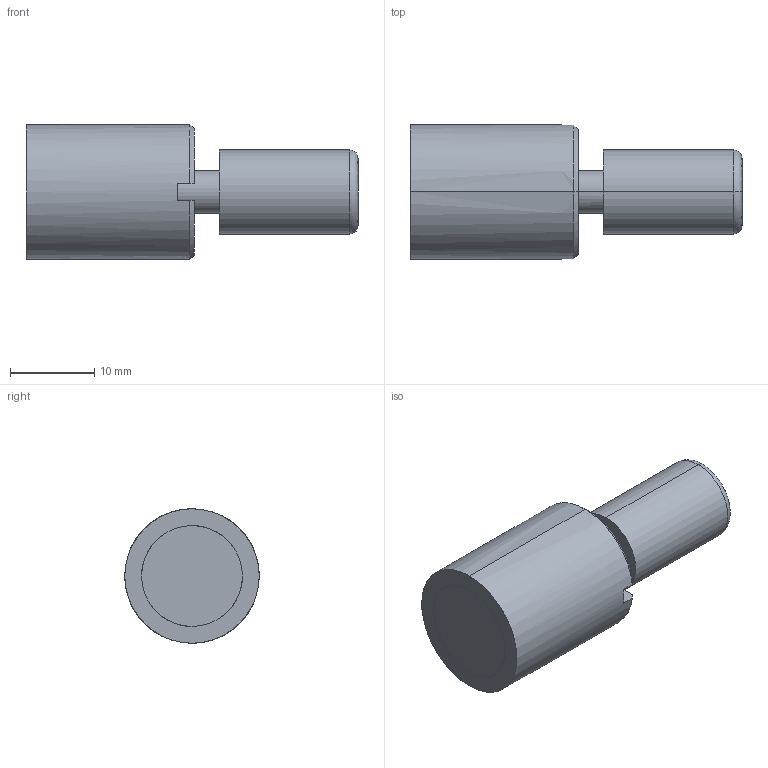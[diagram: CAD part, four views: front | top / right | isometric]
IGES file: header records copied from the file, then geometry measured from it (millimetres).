
Start section: START RECORD GO HERE.
Global section: file name: CF-VPA16.igs; native system: DASSAULT SYSTEMES CATIA V5 R20 - www.3ds.com; preprocessor: CATIA Version 5 Release 20 ; author: Utente; organization: NB04-ASUS; date: 20210320.175138; units: millimetre
Bounding box: 39.5 x 16 x 16 mm (x, y, z)
Surface area: 2933 mm2 (no closed solid volume)
Topology: 0 solids, 0 shells, 30 faces, 176 edges, 176 vertices
Faces by surface type: revolution 18, plane 12
